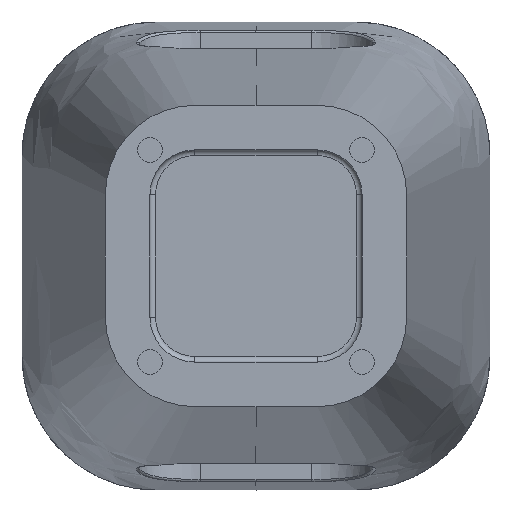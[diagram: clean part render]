
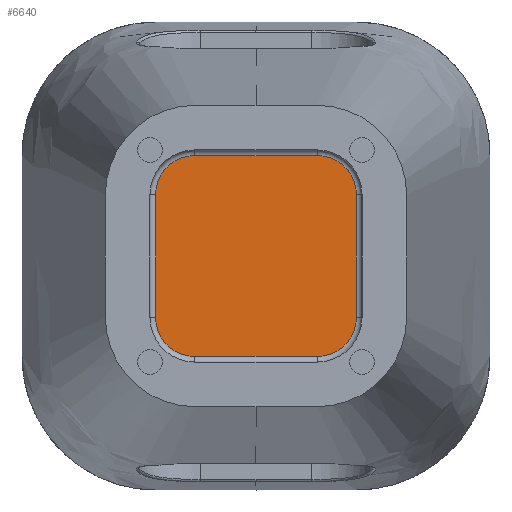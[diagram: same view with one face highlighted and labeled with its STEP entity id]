
A CAD part, front view. The second image highlights one B-rep face of the part: STEP entity #6640.
In plain terms, the highlighted planar face has unit normal (0, -1, 0).
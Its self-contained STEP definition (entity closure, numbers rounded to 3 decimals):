
#326 = ORIENTED_EDGE ( 'NONE', *, *, #7558, .T. ) ;
#732 = VERTEX_POINT ( 'NONE', #10177 ) ;
#762 = EDGE_LOOP ( 'NONE', ( #1727, #7720, #6880, #5574, #8985, #1031, #326, #10250 ) ) ;
#906 = VERTEX_POINT ( 'NONE', #1737 ) ;
#1016 = EDGE_CURVE ( 'NONE', #10050, #4038, #3961, .T. ) ;
#1031 = ORIENTED_EDGE ( 'NONE', *, *, #5939, .T. ) ;
#1122 = CARTESIAN_POINT ( 'NONE',  ( 90., -505., -70. ) ) ;
#1727 = ORIENTED_EDGE ( 'NONE', *, *, #4798, .T. ) ;
#1737 = CARTESIAN_POINT ( 'NONE',  ( 55., -505., -105. ) ) ;
#2071 = DIRECTION ( 'NONE',  ( 0., 0., -1. ) ) ;
#2075 = DIRECTION ( 'NONE',  ( 0., 0., -1. ) ) ;
#2176 = CARTESIAN_POINT ( 'NONE',  ( -55., -505., 75. ) ) ;
#2335 = CIRCLE ( 'NONE', #10602, 35. ) ;
#2438 = VERTEX_POINT ( 'NONE', #3381 ) ;
#2519 = PLANE ( 'NONE',  #5354 ) ;
#2681 = LINE ( 'NONE', #6527, #11605 ) ;
#2692 = DIRECTION ( 'NONE',  ( 0., 1., 0. ) ) ;
#2708 = EDGE_CURVE ( 'NONE', #2438, #9105, #8299, .T. ) ;
#2760 = DIRECTION ( 'NONE',  ( 0., 0., -1. ) ) ;
#3278 = LINE ( 'NONE', #9019, #3960 ) ;
#3381 = CARTESIAN_POINT ( 'NONE',  ( -90., -505., -70. ) ) ;
#3517 = VERTEX_POINT ( 'NONE', #6023 ) ;
#3540 = AXIS2_PLACEMENT_3D ( 'NONE', #11837, #7940, #2075 ) ;
#3745 = LINE ( 'NONE', #5383, #7780 ) ;
#3949 = DIRECTION ( 'NONE',  ( 0., -1., 0. ) ) ;
#3960 = VECTOR ( 'NONE', #7306, 1000. ) ;
#3961 = LINE ( 'NONE', #1122, #11424 ) ;
#4038 = VERTEX_POINT ( 'NONE', #10092 ) ;
#4409 = DIRECTION ( 'NONE',  ( 0., -1., 0. ) ) ;
#4470 = FACE_OUTER_BOUND ( 'NONE', #762, .T. ) ;
#4798 = EDGE_CURVE ( 'NONE', #9105, #906, #3278, .T. ) ;
#5220 = CIRCLE ( 'NONE', #7429, 35. ) ;
#5354 = AXIS2_PLACEMENT_3D ( 'NONE', #8262, #10265, #6365 ) ;
#5383 = CARTESIAN_POINT ( 'NONE',  ( -90., -505., -70. ) ) ;
#5574 = ORIENTED_EDGE ( 'NONE', *, *, #6932, .F. ) ;
#5692 = AXIS2_PLACEMENT_3D ( 'NONE', #8509, #4409, #6429 ) ;
#5939 = EDGE_CURVE ( 'NONE', #10356, #732, #5220, .T. ) ;
#6023 = CARTESIAN_POINT ( 'NONE',  ( 55., -505., 75. ) ) ;
#6365 = DIRECTION ( 'NONE',  ( 0., 0., -1. ) ) ;
#6429 = DIRECTION ( 'NONE',  ( 0., 0., -1. ) ) ;
#6527 = CARTESIAN_POINT ( 'NONE',  ( -55., -505., 75. ) ) ;
#6594 = CARTESIAN_POINT ( 'NONE',  ( -55., -505., -105. ) ) ;
#6640 = ADVANCED_FACE ( 'NONE', ( #4470 ), #2519, .T. ) ;
#6852 = CARTESIAN_POINT ( 'NONE',  ( -55., -505., 40. ) ) ;
#6880 = ORIENTED_EDGE ( 'NONE', *, *, #1016, .F. ) ;
#6932 = EDGE_CURVE ( 'NONE', #3517, #10050, #12198, .T. ) ;
#7021 = EDGE_CURVE ( 'NONE', #4038, #906, #2335, .T. ) ;
#7306 = DIRECTION ( 'NONE',  ( 1., 0., 0. ) ) ;
#7429 = AXIS2_PLACEMENT_3D ( 'NONE', #6852, #3949, #8625 ) ;
#7558 = EDGE_CURVE ( 'NONE', #732, #2438, #3745, .T. ) ;
#7720 = ORIENTED_EDGE ( 'NONE', *, *, #7021, .F. ) ;
#7780 = VECTOR ( 'NONE', #8290, 1000. ) ;
#7940 = DIRECTION ( 'NONE',  ( 0., 1., 0. ) ) ;
#8262 = CARTESIAN_POINT ( 'NONE',  ( -55., -505., -70. ) ) ;
#8290 = DIRECTION ( 'NONE',  ( 0., 0., -1. ) ) ;
#8299 = CIRCLE ( 'NONE', #5692, 35. ) ;
#8483 = DIRECTION ( 'NONE',  ( -1., 0., 0. ) ) ;
#8509 = CARTESIAN_POINT ( 'NONE',  ( -55., -505., -70. ) ) ;
#8625 = DIRECTION ( 'NONE',  ( 0., 0., -1. ) ) ;
#8985 = ORIENTED_EDGE ( 'NONE', *, *, #9024, .T. ) ;
#9019 = CARTESIAN_POINT ( 'NONE',  ( -55., -505., -105. ) ) ;
#9024 = EDGE_CURVE ( 'NONE', #3517, #10356, #2681, .T. ) ;
#9105 = VERTEX_POINT ( 'NONE', #6594 ) ;
#10050 = VERTEX_POINT ( 'NONE', #11002 ) ;
#10092 = CARTESIAN_POINT ( 'NONE',  ( 90., -505., -70. ) ) ;
#10177 = CARTESIAN_POINT ( 'NONE',  ( -90., -505., 40. ) ) ;
#10250 = ORIENTED_EDGE ( 'NONE', *, *, #2708, .T. ) ;
#10265 = DIRECTION ( 'NONE',  ( 0., -1., 0. ) ) ;
#10356 = VERTEX_POINT ( 'NONE', #2176 ) ;
#10602 = AXIS2_PLACEMENT_3D ( 'NONE', #11383, #2692, #2760 ) ;
#11002 = CARTESIAN_POINT ( 'NONE',  ( 90., -505., 40. ) ) ;
#11383 = CARTESIAN_POINT ( 'NONE',  ( 55., -505., -70. ) ) ;
#11424 = VECTOR ( 'NONE', #2071, 1000. ) ;
#11605 = VECTOR ( 'NONE', #8483, 1000. ) ;
#11837 = CARTESIAN_POINT ( 'NONE',  ( 55., -505., 40. ) ) ;
#12198 = CIRCLE ( 'NONE', #3540, 35. ) ;
